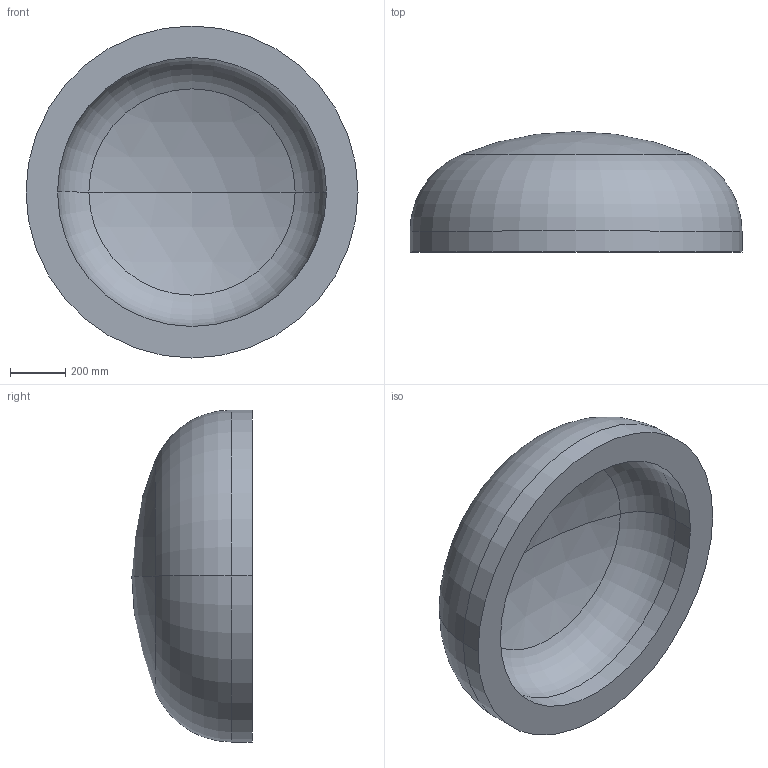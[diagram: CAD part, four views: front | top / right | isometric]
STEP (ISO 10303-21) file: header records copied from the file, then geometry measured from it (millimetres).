
FILE_DESCRIPTION (( 'STEP AP203' ), '1' );
FILE_NAME ('DIN 28013 Korbbogenform_-_Boden DIN 28013 - 1200 x 75 - I - s=114.step', '2016-07-01T09:39:36', ( '' ), ( '' ), 'SwSTEP 2.0', 'SolidWorks 2013', '' );
FILE_SCHEMA (( 'CONFIG_CONTROL_DESIGN' ));
Length unit declared in the file: millimetre
Products named in the file (1): DIN 28013 Korbbogenform_-_Boden DIN 28013 - 1200 x 75 - I - s=114
Bounding box: 1200 x 434.84 x 1200 mm (x, y, z)
Volume: 187905875.7 mm3; surface area: 3712754.2 mm2
Topology: 1 solids, 1 shells, 13 faces, 24 edges, 14 vertices
Faces by surface type: torus 4, cylinder 4, sphere 4, plane 1
Entity records: 407 total; most frequent: DIRECTION 72, CARTESIAN_POINT 52, ORIENTED_EDGE 48, AXIS2_PLACEMENT_3D 34, EDGE_CURVE 24, CIRCLE 20, EDGE_LOOP 14, VERTEX_POINT 14
